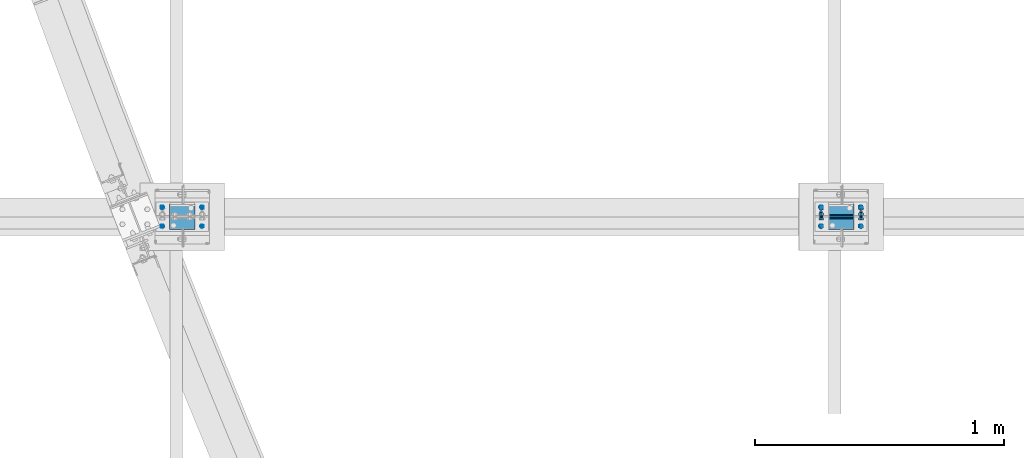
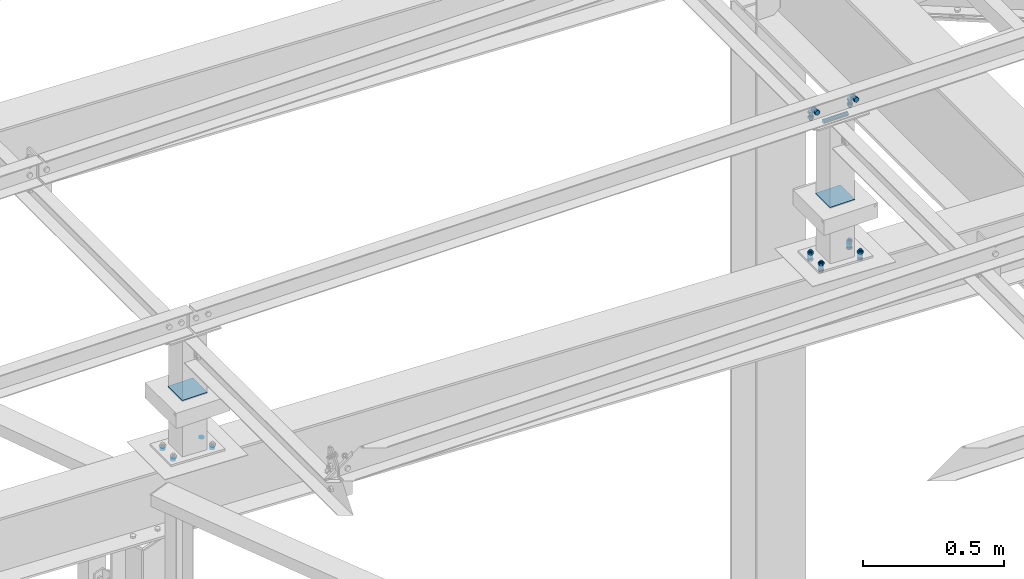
# One storey, part 53 of 3134: 8 mechanical fasteners, 5 elements without a shape of their own.
"""IFC2X3 building model written with IfcOpenShell, lengths in millimetres."""

from ifc_helpers import new_model, si_unit, frame, origin_with_axes, place, context, subcontext, project, spatial, faceted_brep, source, transform, mapped, material, type_object, element, aggregate, save


model = new_model("IFC2X3")

# Units and contexts
model_context = context("Model", 3, precision=1e-05, world=origin_with_axes())
body_context = subcontext(model_context, "Body", "Model", "MODEL_VIEW")
ifc_project = project(units=[si_unit("LENGTHUNIT", "METRE", prefix="MILLI"), si_unit("AREAUNIT", "SQUARE_METRE"), si_unit("VOLUMEUNIT", "CUBIC_METRE"), si_unit("MASSUNIT", "GRAM", prefix="KILO"), si_unit("TIMEUNIT", "SECOND"), si_unit("PLANEANGLEUNIT", "RADIAN"), si_unit("SOLIDANGLEUNIT", "STERADIAN"), si_unit("THERMODYNAMICTEMPERATUREUNIT", "DEGREE_CELSIUS"), si_unit("LUMINOUSINTENSITYUNIT", "LUMEN")], contexts=[model_context])

# Site, building, storey
site_placement = place(None, origin_with_axes())
site = spatial("IfcSite", under=ifc_project, at=site_placement, CompositionType="ELEMENT")
building_placement = place(site_placement, origin_with_axes())
building = spatial("IfcBuilding", under=site, at=building_placement, Name="Undefined", CompositionType="ELEMENT")
storey_placement = place(building_placement, origin_with_axes())
storey = spatial("IfcBuildingStorey", under=building, at=storey_placement, Name="Undefined", CompositionType="ELEMENT", Elevation=0.0)

# Assembly, mechanical fastener
assembly_1_placement = place(storey_placement, origin_with_axes())
assembly_1 = element("IfcElementAssembly", 1, at=assembly_1_placement, inside=storey, AssemblyPlace="NOTDEFINED", PredefinedType="RIGID_FRAME")
ifc_material_1 = material(Name="8.8")
mechanical_fastener_type = type_object("IfcMechanicalFastenerType", Name="Bolt assembly")
shared_shape_1 = source(origin_with_axes(), body_context, "Body", "Brep", [
    faceted_brep([(10.9696551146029, -14.0, 0.0), (5.48482755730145, -14.0, 9.5), (-5.48482755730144, -14.0, 9.5), (-10.9696551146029, -14.0, 1.34339530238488e-15), (-5.48482755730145, -14.0, -9.5), (5.48482755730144, -14.0, -9.50000000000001), (5.48482755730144, -6.0, -9.50000000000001), (-5.48482755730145, -6.0, -9.5), (-10.9696551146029, -6.0, 1.34339530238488e-15), (-5.48482755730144, -6.0, 9.5), (5.48482755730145, -6.0, 9.5), (10.9696551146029, -6.0, 0.0), (6.0, -6.0, 0.0), (5.19615242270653, -6.0, 3.00000000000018), (2.99999999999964, -6.0, 5.19615242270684), (-6.21801588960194e-13, -6.0, 6.0), (-3.00000000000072, -6.0, 5.19615242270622), (-5.19615242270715, -6.0, 2.9999999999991), (-6.0, -6.0, -1.24360317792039e-12), (-5.19615242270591, -6.0, -3.00000000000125), (-2.99999999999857, -6.0, -5.19615242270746), (1.85874342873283e-12, -6.0, -6.0), (3.00000000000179, -6.0, -5.1961524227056), (5.19615242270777, -6.0, -2.99999999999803), (5.19615242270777, 24.0, -2.99999999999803), (3.00000000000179, 24.0, -5.1961524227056), (1.85874342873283e-12, 24.0, -6.0), (-2.99999999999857, 24.0, -5.19615242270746), (-5.19615242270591, 24.0, -3.00000000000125), (-6.0, 24.0, -1.24360317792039e-12), (-5.19615242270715, 24.0, 2.9999999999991), (-3.00000000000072, 24.0, 5.19615242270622), (-6.21801588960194e-13, 24.0, 6.0), (2.99999999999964, 24.0, 5.19615242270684), (5.19615242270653, 24.0, 3.00000000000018), (6.0, 24.0, 0.0), (10.9696551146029, 6.00000000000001, 0.0), (5.48482755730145, 6.00000000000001, 9.5), (-5.48482755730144, 6.00000000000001, 9.5), (-10.9696551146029, 6.00000000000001, 1.34339530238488e-15), (-5.48482755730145, 6.00000000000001, -9.5), (5.48482755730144, 6.00000000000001, -9.50000000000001), (5.48482755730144, 16.0, -9.50000000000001), (-5.48482755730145, 16.0, -9.5), (-10.9696551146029, 16.0, 1.34339530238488e-15), (-5.48482755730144, 16.0, 9.5), (5.48482755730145, 16.0, 9.5), (10.9696551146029, 16.0, 0.0)], [[[0, 1, 2, 3, 4, 5]], [[6, 7, 8, 9, 10, 11]], [[0, 11, 10, 1]], [[1, 10, 9, 2]], [[2, 9, 8, 3]], [[3, 8, 7, 4]], [[4, 7, 6, 5]], [[5, 6, 11, 0]], [[12, 13, 14, 15, 16, 17, 18, 19, 20, 21, 22, 23]], [[24, 25, 26, 27, 28, 29, 30, 31, 32, 33, 34, 35]], [[12, 35, 34, 13]], [[13, 34, 33, 14]], [[14, 33, 32, 15]], [[15, 32, 31, 16]], [[16, 31, 30, 17]], [[17, 30, 29, 18]], [[18, 29, 28, 19]], [[19, 28, 27, 20]], [[20, 27, 26, 21]], [[21, 26, 25, 22]], [[22, 25, 24, 23]], [[23, 24, 35, 12]], [[36, 37, 38, 39, 40, 41]], [[42, 43, 44, 45, 46, 47]], [[36, 47, 46, 37]], [[37, 46, 45, 38]], [[38, 45, 44, 39]], [[39, 44, 43, 40]], [[40, 43, 42, 41]], [[41, 42, 47, 36]]]),
    faceted_brep([(7.0, -0.1, 0.0), (6.06217782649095, -0.1, 3.50000000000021), (3.49999999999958, -0.1, 6.06217782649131), (-7.25435187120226e-13, -0.1, 7.0), (-3.50000000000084, -0.1, 6.06217782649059), (-6.06217782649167, -0.1, 3.49999999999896), (-7.0, -0.1, -1.45087037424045e-12), (-6.06217782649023, -0.1, -3.50000000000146), (-3.49999999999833, -0.1, -6.06217782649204), (2.1685340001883e-12, -0.1, -7.0), (3.50000000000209, -0.1, -6.06217782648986), (6.0621778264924, -0.1, -3.4999999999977), (6.0621778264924, 6.00000000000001, -3.4999999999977), (3.50000000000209, 6.00000000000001, -6.06217782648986), (2.1685340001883e-12, 6.00000000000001, -7.0), (-3.49999999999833, 6.00000000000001, -6.06217782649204), (-6.06217782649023, 6.00000000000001, -3.50000000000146), (-7.0, 6.00000000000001, -1.45087037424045e-12), (-6.06217782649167, 6.00000000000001, 3.49999999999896), (-3.50000000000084, 6.00000000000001, 6.06217782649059), (-7.25435187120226e-13, 6.00000000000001, 7.0), (3.49999999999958, 6.00000000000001, 6.06217782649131), (6.06217782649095, 6.00000000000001, 3.50000000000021), (7.0, 6.00000000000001, 0.0), (7.0, -5.9, 0.0), (6.06217782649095, -5.9, 3.50000000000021), (3.49999999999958, -5.9, 6.06217782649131), (-7.25435187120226e-13, -5.9, 7.0), (-3.50000000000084, -5.9, 6.06217782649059), (-6.06217782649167, -5.9, 3.49999999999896), (-7.0, -5.9, -1.45087037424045e-12), (-6.06217782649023, -5.9, -3.50000000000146), (-3.49999999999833, -5.9, -6.06217782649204), (2.1685340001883e-12, -5.9, -7.0), (3.50000000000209, -5.9, -6.06217782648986), (6.0621778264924, -5.9, -3.4999999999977), (6.0621778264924, 0.0999999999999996, -3.4999999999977), (3.50000000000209, 0.0999999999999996, -6.06217782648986), (2.1685340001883e-12, 0.0999999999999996, -7.0), (-3.49999999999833, 0.0999999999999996, -6.06217782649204), (-6.06217782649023, 0.0999999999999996, -3.50000000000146), (-7.0, 0.0999999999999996, -1.45087037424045e-12), (-6.06217782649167, 0.0999999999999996, 3.49999999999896), (-3.50000000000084, 0.0999999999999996, 6.06217782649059), (-7.25435187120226e-13, 0.0999999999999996, 7.0), (3.49999999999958, 0.0999999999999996, 6.06217782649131), (6.06217782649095, 0.0999999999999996, 3.50000000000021), (7.0, 0.0999999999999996, 0.0)], [[[0, 1, 2, 3, 4, 5, 6, 7, 8, 9, 10, 11]], [[12, 13, 14, 15, 16, 17, 18, 19, 20, 21, 22, 23]], [[0, 23, 22, 1]], [[1, 22, 21, 2]], [[2, 21, 20, 3]], [[3, 20, 19, 4]], [[4, 19, 18, 5]], [[5, 18, 17, 6]], [[6, 17, 16, 7]], [[7, 16, 15, 8]], [[8, 15, 14, 9]], [[9, 14, 13, 10]], [[10, 13, 12, 11]], [[11, 12, 23, 0]], [[24, 25, 26, 27, 28, 29, 30, 31, 32, 33, 34, 35]], [[36, 37, 38, 39, 40, 41, 42, 43, 44, 45, 46, 47]], [[24, 47, 46, 25]], [[25, 46, 45, 26]], [[26, 45, 44, 27]], [[27, 44, 43, 28]], [[28, 43, 42, 29]], [[29, 42, 41, 30]], [[30, 41, 40, 31]], [[31, 40, 39, 32]], [[32, 39, 38, 33]], [[33, 38, 37, 34]], [[34, 37, 36, 35]], [[35, 36, 47, 24]]]),
])
mechanical_fastener_1_placement = place(assembly_1_placement, frame((8340.0, 17355.0, 4365.0), z_axis=(1.0, 0.0, 0.0), x_axis=(0.0, -1.0, 0.0)))
mechanical_fastener_1 = element("IfcMechanicalFastener", 2, at=mechanical_fastener_1_placement, type_object=mechanical_fastener_type, material=ifc_material_1, Name="Bolt assembly", NominalDiameter=12.0, NominalLength=30.0, context=body_context, shape_type="MappedRepresentation", body=[
    mapped(shared_shape_1, transform((0.0, -5.32963895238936e-10, -79.9999999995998))),
    mapped(shared_shape_1, transform((0.0, 5.3114490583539e-10, 79.9999999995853))),
])

assembly_2_placement = place(storey_placement, origin_with_axes())
assembly_2 = element("IfcElementAssembly", 3, at=assembly_2_placement, inside=storey, AssemblyPlace="NOTDEFINED", PredefinedType="RIGID_FRAME")
shared_shape_2 = source(origin_with_axes(), body_context, "Body", "Brep", [
    faceted_brep([(10.9696551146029, -4.18346828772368, 0.0), (5.48482755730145, -4.18346828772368, 9.5), (-5.48482755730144, -4.18346828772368, 9.5), (-10.9696551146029, -4.18346828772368, 1.34339530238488e-15), (-5.48482755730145, -4.18346828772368, -9.5), (5.48482755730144, -4.18346828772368, -9.50000000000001), (5.48482755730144, 3.81653171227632, -9.50000000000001), (-5.48482755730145, 3.81653171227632, -9.5), (-10.9696551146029, 3.81653171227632, 1.34339530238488e-15), (-5.48482755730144, 3.81653171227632, 9.5), (5.48482755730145, 3.81653171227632, 9.5), (10.9696551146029, 3.81653171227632, 0.0), (6.0, 3.81653171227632, 0.0), (5.19615242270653, 3.81653171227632, 3.00000000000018), (2.99999999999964, 3.81653171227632, 5.19615242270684), (-6.21801588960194e-13, 3.81653171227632, 6.0), (-3.00000000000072, 3.81653171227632, 5.19615242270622), (-5.19615242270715, 3.81653171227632, 2.9999999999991), (-6.0, 3.81653171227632, -1.24360317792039e-12), (-5.19615242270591, 3.81653171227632, -3.00000000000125), (-2.99999999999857, 3.81653171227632, -5.19615242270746), (1.85874342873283e-12, 3.81653171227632, -6.0), (3.00000000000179, 3.81653171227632, -5.1961524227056), (5.19615242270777, 3.81653171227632, -2.99999999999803), (5.19615242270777, 38.8165317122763, -2.99999999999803), (3.00000000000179, 38.8165317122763, -5.1961524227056), (1.85874342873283e-12, 38.8165317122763, -6.0), (-2.99999999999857, 38.8165317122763, -5.19615242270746), (-5.19615242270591, 38.8165317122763, -3.00000000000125), (-6.0, 38.8165317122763, -1.24360317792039e-12), (-5.19615242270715, 38.8165317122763, 2.9999999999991), (-3.00000000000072, 38.8165317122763, 5.19615242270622), (-6.21801588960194e-13, 38.8165317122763, 6.0), (2.99999999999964, 38.8165317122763, 5.19615242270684), (5.19615242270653, 38.8165317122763, 3.00000000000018), (6.0, 38.8165317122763, 0.0), (10.9696551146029, 23.0139082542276, 0.0), (5.48482755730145, 23.0139082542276, 9.5), (-5.48482755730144, 23.0139082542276, 9.5), (-10.9696551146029, 23.0139082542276, 1.34339530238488e-15), (-5.48482755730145, 23.0139082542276, -9.5), (5.48482755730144, 23.0139082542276, -9.50000000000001), (5.48482755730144, 33.0139082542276, -9.50000000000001), (-5.48482755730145, 33.0139082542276, -9.5), (-10.9696551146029, 33.0139082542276, 1.34339530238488e-15), (-5.48482755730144, 33.0139082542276, 9.5), (5.48482755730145, 33.0139082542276, 9.5), (10.9696551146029, 33.0139082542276, 0.0)], [[[0, 1, 2, 3, 4, 5]], [[6, 7, 8, 9, 10, 11]], [[0, 11, 10, 1]], [[1, 10, 9, 2]], [[2, 9, 8, 3]], [[3, 8, 7, 4]], [[4, 7, 6, 5]], [[5, 6, 11, 0]], [[12, 13, 14, 15, 16, 17, 18, 19, 20, 21, 22, 23]], [[24, 25, 26, 27, 28, 29, 30, 31, 32, 33, 34, 35]], [[12, 35, 34, 13]], [[13, 34, 33, 14]], [[14, 33, 32, 15]], [[15, 32, 31, 16]], [[16, 31, 30, 17]], [[17, 30, 29, 18]], [[18, 29, 28, 19]], [[19, 28, 27, 20]], [[20, 27, 26, 21]], [[21, 26, 25, 22]], [[22, 25, 24, 23]], [[23, 24, 35, 12]], [[36, 37, 38, 39, 40, 41]], [[42, 43, 44, 45, 46, 47]], [[36, 47, 46, 37]], [[37, 46, 45, 38]], [[38, 45, 44, 39]], [[39, 44, 43, 40]], [[40, 43, 42, 41]], [[41, 42, 47, 36]]]),
    faceted_brep([(7.0, 3.91653171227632, 0.0), (6.06217782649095, 3.91653171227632, 3.50000000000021), (3.49999999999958, 3.91653171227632, 6.06217782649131), (-7.25435187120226e-13, 3.91653171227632, 7.0), (-3.50000000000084, 3.91653171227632, 6.06217782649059), (-6.06217782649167, 3.91653171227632, 3.49999999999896), (-7.0, 3.91653171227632, -1.45087037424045e-12), (-6.06217782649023, 3.91653171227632, -3.50000000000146), (-3.49999999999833, 3.91653171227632, -6.06217782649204), (2.1685340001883e-12, 3.91653171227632, -7.0), (3.50000000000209, 3.91653171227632, -6.06217782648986), (6.0621778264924, 3.91653171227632, -3.4999999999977), (6.0621778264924, 13.1165315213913, -3.4999999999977), (3.50000000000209, 13.1165315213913, -6.06217782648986), (2.1685340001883e-12, 13.1165315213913, -7.0), (-3.49999999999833, 13.1165315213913, -6.06217782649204), (-6.06217782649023, 13.1165315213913, -3.50000000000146), (-7.0, 13.1165315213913, -1.45087037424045e-12), (-6.06217782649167, 13.1165315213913, 3.49999999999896), (-3.50000000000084, 13.1165315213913, 6.06217782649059), (-7.25435187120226e-13, 13.1165315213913, 7.0), (3.49999999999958, 13.1165315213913, 6.06217782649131), (6.06217782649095, 13.1165315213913, 3.50000000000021), (7.0, 13.1165315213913, 0.0), (7.0, 14.9139082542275, 0.0), (6.06217782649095, 14.9139082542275, 3.50000000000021), (3.49999999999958, 14.9139082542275, 6.06217782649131), (-7.25435187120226e-13, 14.9139082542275, 7.0), (-3.50000000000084, 14.9139082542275, 6.06217782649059), (-6.06217782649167, 14.9139082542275, 3.49999999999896), (-7.0, 14.9139082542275, -1.45087037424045e-12), (-6.06217782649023, 14.9139082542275, -3.50000000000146), (-3.49999999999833, 14.9139082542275, -6.06217782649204), (2.1685340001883e-12, 14.9139082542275, -7.0), (3.50000000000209, 14.9139082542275, -6.06217782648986), (6.0621778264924, 14.9139082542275, -3.4999999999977), (6.0621778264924, 23.0139082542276, -3.4999999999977), (3.50000000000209, 23.0139082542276, -6.06217782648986), (2.1685340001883e-12, 23.0139082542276, -7.0), (-3.49999999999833, 23.0139082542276, -6.06217782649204), (-6.06217782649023, 23.0139082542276, -3.50000000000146), (-7.0, 23.0139082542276, -1.45087037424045e-12), (-6.06217782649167, 23.0139082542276, 3.49999999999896), (-3.50000000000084, 23.0139082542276, 6.06217782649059), (-7.25435187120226e-13, 23.0139082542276, 7.0), (3.49999999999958, 23.0139082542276, 6.06217782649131), (6.06217782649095, 23.0139082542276, 3.50000000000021), (7.0, 23.0139082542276, 0.0)], [[[0, 1, 2, 3, 4, 5, 6, 7, 8, 9, 10, 11]], [[12, 13, 14, 15, 16, 17, 18, 19, 20, 21, 22, 23]], [[0, 23, 22, 1]], [[1, 22, 21, 2]], [[2, 21, 20, 3]], [[3, 20, 19, 4]], [[4, 19, 18, 5]], [[5, 18, 17, 6]], [[6, 17, 16, 7]], [[7, 16, 15, 8]], [[8, 15, 14, 9]], [[9, 14, 13, 10]], [[10, 13, 12, 11]], [[11, 12, 23, 0]], [[24, 25, 26, 27, 28, 29, 30, 31, 32, 33, 34, 35]], [[36, 37, 38, 39, 40, 41, 42, 43, 44, 45, 46, 47]], [[24, 47, 46, 25]], [[25, 46, 45, 26]], [[26, 45, 44, 27]], [[27, 44, 43, 28]], [[28, 43, 42, 29]], [[29, 42, 41, 30]], [[30, 41, 40, 31]], [[31, 40, 39, 32]], [[32, 39, 38, 33]], [[33, 38, 37, 34]], [[34, 37, 36, 35]], [[35, 36, 47, 24]]]),
])
mechanical_fastener_2_placement = place(assembly_2_placement, frame((8339.1931765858, 17357.9999999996, 3735.10000668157), z_axis=(-0.999387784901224, 0.0, 0.0349865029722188), x_axis=(0.0, -1.0, 0.0)))
mechanical_fastener_2 = element("IfcMechanicalFastener", 4, at=mechanical_fastener_2_placement, type_object=mechanical_fastener_type, material=ifc_material_1, Name="Bolt assembly", NominalDiameter=12.0, NominalLength=35.0, context=body_context, shape_type="MappedRepresentation", body=[
    mapped(shared_shape_2, transform((0.0, -5.32963895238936e-10, -79.9999999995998))),
    mapped(shared_shape_2, transform((76.0, -5.32963895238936e-10, -79.9999999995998))),
    mapped(shared_shape_2, transform((0.0, 5.3114490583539e-10, 79.9999999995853))),
    mapped(shared_shape_2, transform((76.0, 5.3114490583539e-10, 79.9999999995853))),
])

assembly_3_placement = place(storey_placement, origin_with_axes())
assembly_3 = element("IfcElementAssembly", 5, at=assembly_3_placement, inside=storey, AssemblyPlace="NOTDEFINED", PredefinedType="RIGID_FRAME")
shared_shape_3 = source(origin_with_axes(), body_context, "Body", "Brep", [
    faceted_brep([(7.0, 13.0000253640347, 0.0), (6.06217782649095, 13.0000253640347, 3.50000000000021), (3.49999999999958, 13.0000253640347, 6.06217782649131), (-7.25435187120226e-13, 13.0000253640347, 7.0), (-3.50000000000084, 13.0000253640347, 6.06217782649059), (-6.06217782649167, 13.0000253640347, 3.49999999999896), (-7.0, 13.0000253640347, -1.45087037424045e-12), (-6.06217782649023, 13.0000253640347, -3.50000000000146), (-3.49999999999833, 13.0000253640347, -6.06217782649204), (2.1685340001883e-12, 13.0000253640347, -7.0), (3.50000000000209, 13.0000253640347, -6.06217782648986), (6.0621778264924, 13.0000253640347, -3.4999999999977), (6.0621778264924, 15.0999999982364, -3.4999999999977), (3.50000000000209, 15.0999999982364, -6.06217782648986), (2.1685340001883e-12, 15.0999999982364, -7.0), (-3.49999999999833, 15.0999999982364, -6.06217782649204), (-6.06217782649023, 15.0999999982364, -3.50000000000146), (-7.0, 15.0999999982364, -1.45087037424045e-12), (-6.06217782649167, 15.0999999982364, 3.49999999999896), (-3.50000000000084, 15.0999999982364, 6.06217782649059), (-7.25435187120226e-13, 15.0999999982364, 7.0), (3.49999999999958, 15.0999999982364, 6.06217782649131), (6.06217782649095, 15.0999999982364, 3.50000000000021), (7.0, 15.0999999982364, 0.0)], [[[0, 1, 2, 3, 4, 5, 6, 7, 8, 9, 10, 11]], [[12, 13, 14, 15, 16, 17, 18, 19, 20, 21, 22, 23]], [[0, 23, 22, 1]], [[1, 22, 21, 2]], [[2, 21, 20, 3]], [[3, 20, 19, 4]], [[4, 19, 18, 5]], [[5, 18, 17, 6]], [[6, 17, 16, 7]], [[7, 16, 15, 8]], [[8, 15, 14, 9]], [[9, 14, 13, 10]], [[10, 13, 12, 11]], [[11, 12, 23, 0]]]),
])
mechanical_fastener_3_placement = place(assembly_3_placement, frame((5690.86474073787, 17357.9999999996, 3827.79222028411), z_axis=(-0.999387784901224, 0.0, 0.0349865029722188), x_axis=(0.0, -1.0, 0.0)))
mechanical_fastener_3 = element("IfcMechanicalFastener", 6, at=mechanical_fastener_3_placement, type_object=mechanical_fastener_type, material=ifc_material_1, Name="Bolt assembly", NominalDiameter=12.0, NominalLength=2.0, context=body_context, shape_type="MappedRepresentation", body=[
    mapped(shared_shape_3, transform((0.0, -5.32963895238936e-10, -79.9999999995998))),
    mapped(shared_shape_3, transform((76.0, -5.32963895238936e-10, -79.9999999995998))),
    mapped(shared_shape_3, transform((0.0, 5.3114490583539e-10, 79.9999999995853))),
    mapped(shared_shape_3, transform((76.0, 5.3114490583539e-10, 79.9999999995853))),
])
aggregate(assembly_3, [mechanical_fastener_3])

assembly_4_placement = place(storey_placement, origin_with_axes())
assembly_4 = element("IfcElementAssembly", 7, at=assembly_4_placement, inside=storey, AssemblyPlace="NOTDEFINED", PredefinedType="RIGID_FRAME")
mechanical_fastener_4_placement = place(assembly_4_placement, frame((8339.1931765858, 17357.9999999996, 3735.10000668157), z_axis=(-0.999387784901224, 0.0, 0.0349865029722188), x_axis=(0.0, -1.0, 0.0)))
mechanical_fastener_4 = element("IfcMechanicalFastener", 8, at=mechanical_fastener_4_placement, type_object=mechanical_fastener_type, material=ifc_material_1, Name="Bolt assembly", NominalDiameter=12.0, NominalLength=2.0, context=body_context, shape_type="MappedRepresentation", body=[
    mapped(shared_shape_3, transform((0.0, -5.32963895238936e-10, -79.9999999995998))),
    mapped(shared_shape_3, transform((76.0, -5.32963895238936e-10, -79.9999999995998))),
    mapped(shared_shape_3, transform((0.0, 5.3114490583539e-10, 79.9999999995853))),
    mapped(shared_shape_3, transform((76.0, 5.3114490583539e-10, 79.9999999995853))),
])
aggregate(assembly_4, [mechanical_fastener_4])

# Mechanical fastener
shared_shape_4 = source(origin_with_axes(), body_context, "Body", "Brep", [
    faceted_brep([(9.0, -50.0, 0.0), (7.79422863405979, -50.0, 4.50000000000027), (4.49999999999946, -50.0, 7.79422863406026), (-9.3270238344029e-13, -50.0, 9.0), (-4.50000000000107, -50.0, 7.79422863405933), (-7.79422863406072, -50.0, 4.49999999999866), (-9.0, -50.0, -1.86540476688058e-12), (-7.79422863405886, -50.0, -4.50000000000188), (-4.49999999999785, -50.0, -7.79422863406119), (2.78811514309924e-12, -50.0, -9.0), (4.50000000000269, -50.0, -7.7942286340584), (7.79422863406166, -50.0, -4.49999999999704), (7.79422863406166, 50.1, -4.49999999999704), (4.50000000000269, 50.1, -7.7942286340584), (2.78811514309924e-12, 50.1, -9.0), (-4.49999999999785, 50.1, -7.79422863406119), (-7.79422863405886, 50.1, -4.50000000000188), (-9.0, 50.1, -1.86540476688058e-12), (-7.79422863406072, 50.1, 4.49999999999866), (-4.50000000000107, 50.1, 7.79422863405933), (-9.3270238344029e-13, 50.1, 9.0), (4.49999999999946, 50.1, 7.79422863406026), (7.79422863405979, 50.1, 4.50000000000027), (9.0, 50.1, 0.0)], [[[0, 1, 2, 3, 4, 5, 6, 7, 8, 9, 10, 11]], [[12, 13, 14, 15, 16, 17, 18, 19, 20, 21, 22, 23]], [[0, 23, 22, 1]], [[1, 22, 21, 2]], [[2, 21, 20, 3]], [[3, 20, 19, 4]], [[4, 19, 18, 5]], [[5, 18, 17, 6]], [[6, 17, 16, 7]], [[7, 16, 15, 8]], [[8, 15, 14, 9]], [[9, 14, 13, 10]], [[10, 13, 12, 11]], [[11, 12, 23, 0]]]),
])
mechanical_fastener_5_placement = place(assembly_2_placement, frame((8340.0, 17320.0, 4345.0), z_axis=(0.0, 1.0, 0.0), x_axis=(0.0, 0.0, 1.0)))
mechanical_fastener_5 = element("IfcMechanicalFastener", 9, at=mechanical_fastener_5_placement, type_object=mechanical_fastener_type, material=ifc_material_1, Name="Bolt assembly", NominalDiameter=16.0, NominalLength=100.0, context=body_context, shape_type="MappedRepresentation", body=[
    mapped(shared_shape_4, transform((0.0, 0.0, 0.0))),
])

# Assembly, mechanical fastener
assembly_5_placement = place(storey_placement, origin_with_axes())
assembly_5 = element("IfcElementAssembly", 10, at=assembly_5_placement, inside=storey, AssemblyPlace="NOTDEFINED", PredefinedType="RIGID_FRAME")
ifc_material_2 = material(Name="6.8")
shared_shape_5 = source(origin_with_axes(), body_context, "Body", "Brep", [
    faceted_brep([(51.5, 1.36424205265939e-12, 50.0), (51.3858192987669, 1.36424205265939e-12, 50.5740251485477), (51.0606601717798, 1.36424205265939e-12, 51.0606601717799), (50.5740251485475, 1.36424205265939e-12, 51.385819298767), (-50.0000000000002, 1.36424205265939e-12, 51.5), (-50.7500000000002, 1.36424205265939e-12, 51.2990381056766), (-51.2990381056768, 1.36424205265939e-12, 50.7499999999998), (-51.5, 1.36424205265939e-12, 49.9999999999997), (-51.5, 1.36424205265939e-12, -50.0000000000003), (-51.2990381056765, 1.36424205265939e-12, -50.7500000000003), (-50.7499999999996, 1.36424205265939e-12, -51.2990381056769), (-49.9999999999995, 1.36424205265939e-12, -51.5), (50.0000000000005, 1.36424205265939e-12, -51.5), (50.7500000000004, 1.36424205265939e-12, -51.2990381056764), (51.2990381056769, 1.36424205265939e-12, -50.7499999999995), (51.5, 1.36424205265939e-12, -49.9999999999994), (51.5, 5.10000000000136, -49.9999999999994), (51.2990381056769, 5.10000000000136, -50.7499999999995), (50.7500000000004, 5.10000000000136, -51.2990381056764), (50.0000000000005, 5.10000000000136, -51.5), (-49.9999999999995, 5.10000000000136, -51.5), (-50.7499999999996, 5.10000000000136, -51.2990381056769), (-51.2990381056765, 5.10000000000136, -50.7500000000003), (-51.5, 5.10000000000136, -50.0000000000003), (-51.5, 5.10000000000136, 49.9999999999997), (-51.2990381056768, 5.10000000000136, 50.7499999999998), (-50.7500000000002, 5.10000000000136, 51.2990381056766), (-50.0000000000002, 5.10000000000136, 51.5), (50.5740251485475, 5.10000000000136, 51.385819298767), (51.0606601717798, 5.10000000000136, 51.0606601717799), (51.3858192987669, 5.10000000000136, 50.5740251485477), (51.5, 5.10000000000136, 50.0)], [[[0, 1, 2, 3, 4, 5, 6, 7, 8, 9, 10, 11, 12, 13, 14, 15]], [[16, 17, 18, 19, 20, 21, 22, 23, 24, 25, 26, 27, 28, 29, 30, 31]], [[0, 31, 30, 1]], [[1, 30, 29, 2]], [[2, 29, 28, 3]], [[3, 28, 27, 4]], [[4, 27, 26, 5]], [[5, 26, 25, 6]], [[6, 25, 24, 7]], [[7, 24, 23, 8]], [[8, 23, 22, 9]], [[9, 22, 21, 10]], [[10, 21, 20, 11]], [[11, 20, 19, 12]], [[12, 19, 18, 13]], [[13, 18, 17, 14]], [[14, 17, 16, 15]], [[15, 16, 31, 0]]]),
])
mechanical_fastener_6_placement = place(assembly_5_placement, frame((5691.66156415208, 17320.0, 4097.5922136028), z_axis=(0.0, -1.0, 0.0), x_axis=(-1.0, 0.0, 0.0)))
mechanical_fastener_6 = element("IfcMechanicalFastener", 11, at=mechanical_fastener_6_placement, type_object=mechanical_fastener_type, material=ifc_material_2, Name="Bolt assembly", NominalDiameter=10.0, NominalLength=5.0, context=body_context, shape_type="MappedRepresentation", body=[
    mapped(shared_shape_5, transform((0.0, 0.0, 0.0))),
])
aggregate(assembly_5, [mechanical_fastener_6])

# Mechanical fastener
mechanical_fastener_7_placement = place(assembly_2_placement, frame((8340.0, 17320.0, 4004.89), z_axis=(0.0, -1.0, 0.0), x_axis=(-1.0, 0.0, 0.0)))
mechanical_fastener_7 = element("IfcMechanicalFastener", 12, at=mechanical_fastener_7_placement, type_object=mechanical_fastener_type, material=ifc_material_2, Name="Bolt assembly", NominalDiameter=10.0, NominalLength=5.0, context=body_context, shape_type="MappedRepresentation", body=[
    mapped(shared_shape_5, transform((0.0, 0.0, 0.0))),
])

aggregate(assembly_2, [mechanical_fastener_2, mechanical_fastener_7, mechanical_fastener_5])

shared_shape_6 = source(origin_with_axes(), body_context, "Body", "Brep", [
    faceted_brep([(10.9696551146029, -12.0, 0.0), (5.48482755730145, -12.0, 9.5), (-5.48482755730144, -12.0, 9.5), (-10.9696551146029, -12.0, 1.34339530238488e-15), (-5.48482755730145, -12.0, -9.5), (5.48482755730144, -12.0, -9.50000000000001), (5.48482755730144, -4.0, -9.50000000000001), (-5.48482755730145, -4.0, -9.5), (-10.9696551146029, -4.0, 1.34339530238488e-15), (-5.48482755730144, -4.0, 9.5), (5.48482755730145, -4.0, 9.5), (10.9696551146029, -4.0, 0.0), (6.0, -4.0, 0.0), (5.19615242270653, -4.0, 3.00000000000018), (2.99999999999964, -4.0, 5.19615242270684), (-6.21801588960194e-13, -4.0, 6.0), (-3.00000000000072, -4.0, 5.19615242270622), (-5.19615242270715, -4.0, 2.9999999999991), (-6.0, -4.0, -1.24360317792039e-12), (-5.19615242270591, -4.0, -3.00000000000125), (-2.99999999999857, -4.0, -5.19615242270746), (1.85874342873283e-12, -4.0, -6.0), (3.00000000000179, -4.0, -5.1961524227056), (5.19615242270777, -4.0, -2.99999999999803), (5.19615242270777, 21.0, -2.99999999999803), (3.00000000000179, 21.0, -5.1961524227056), (1.85874342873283e-12, 21.0, -6.0), (-2.99999999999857, 21.0, -5.19615242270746), (-5.19615242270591, 21.0, -3.00000000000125), (-6.0, 21.0, -1.24360317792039e-12), (-5.19615242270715, 21.0, 2.9999999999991), (-3.00000000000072, 21.0, 5.19615242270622), (-6.21801588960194e-13, 21.0, 6.0), (2.99999999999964, 21.0, 5.19615242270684), (5.19615242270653, 21.0, 3.00000000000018), (6.0, 21.0, 0.0), (10.9696551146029, 6.00000000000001, 0.0), (5.48482755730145, 6.00000000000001, 9.5), (-5.48482755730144, 6.00000000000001, 9.5), (-10.9696551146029, 6.00000000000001, 1.34339530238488e-15), (-5.48482755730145, 6.00000000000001, -9.5), (5.48482755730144, 6.00000000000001, -9.50000000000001), (5.48482755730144, 16.0, -9.50000000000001), (-5.48482755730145, 16.0, -9.5), (-10.9696551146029, 16.0, 1.34339530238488e-15), (-5.48482755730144, 16.0, 9.5), (5.48482755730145, 16.0, 9.5), (10.9696551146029, 16.0, 0.0)], [[[0, 1, 2, 3, 4, 5]], [[6, 7, 8, 9, 10, 11]], [[0, 11, 10, 1]], [[1, 10, 9, 2]], [[2, 9, 8, 3]], [[3, 8, 7, 4]], [[4, 7, 6, 5]], [[5, 6, 11, 0]], [[12, 13, 14, 15, 16, 17, 18, 19, 20, 21, 22, 23]], [[24, 25, 26, 27, 28, 29, 30, 31, 32, 33, 34, 35]], [[12, 35, 34, 13]], [[13, 34, 33, 14]], [[14, 33, 32, 15]], [[15, 32, 31, 16]], [[16, 31, 30, 17]], [[17, 30, 29, 18]], [[18, 29, 28, 19]], [[19, 28, 27, 20]], [[20, 27, 26, 21]], [[21, 26, 25, 22]], [[22, 25, 24, 23]], [[23, 24, 35, 12]], [[36, 37, 38, 39, 40, 41]], [[42, 43, 44, 45, 46, 47]], [[36, 47, 46, 37]], [[37, 46, 45, 38]], [[38, 45, 44, 39]], [[39, 44, 43, 40]], [[40, 43, 42, 41]], [[41, 42, 47, 36]]]),
    faceted_brep([(7.0, -3.9, 0.0), (6.06217782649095, -3.9, 3.50000000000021), (3.49999999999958, -3.9, 6.06217782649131), (-7.25435187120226e-13, -3.9, 7.0), (-3.50000000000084, -3.9, 6.06217782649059), (-6.06217782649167, -3.9, 3.49999999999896), (-7.0, -3.9, -1.45087037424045e-12), (-6.06217782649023, -3.9, -3.50000000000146), (-3.49999999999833, -3.9, -6.06217782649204), (2.1685340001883e-12, -3.9, -7.0), (3.50000000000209, -3.9, -6.06217782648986), (6.0621778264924, -3.9, -3.4999999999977), (6.0621778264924, 0.0999999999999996, -3.4999999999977), (3.50000000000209, 0.0999999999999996, -6.06217782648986), (2.1685340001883e-12, 0.0999999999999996, -7.0), (-3.49999999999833, 0.0999999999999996, -6.06217782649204), (-6.06217782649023, 0.0999999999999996, -3.50000000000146), (-7.0, 0.0999999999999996, -1.45087037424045e-12), (-6.06217782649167, 0.0999999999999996, 3.49999999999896), (-3.50000000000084, 0.0999999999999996, 6.06217782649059), (-7.25435187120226e-13, 0.0999999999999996, 7.0), (3.49999999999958, 0.0999999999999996, 6.06217782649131), (6.06217782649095, 0.0999999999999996, 3.50000000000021), (7.0, 0.0999999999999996, 0.0), (7.0, -0.1, 0.0), (6.06217782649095, -0.1, 3.50000000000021), (3.49999999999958, -0.1, 6.06217782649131), (-7.25435187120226e-13, -0.1, 7.0), (-3.50000000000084, -0.1, 6.06217782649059), (-6.06217782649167, -0.1, 3.49999999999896), (-7.0, -0.1, -1.45087037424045e-12), (-6.06217782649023, -0.1, -3.50000000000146), (-3.49999999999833, -0.1, -6.06217782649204), (2.1685340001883e-12, -0.1, -7.0), (3.50000000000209, -0.1, -6.06217782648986), (6.0621778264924, -0.1, -3.4999999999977), (6.0621778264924, 6.00000000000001, -3.4999999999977), (3.50000000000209, 6.00000000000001, -6.06217782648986), (2.1685340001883e-12, 6.00000000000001, -7.0), (-3.49999999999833, 6.00000000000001, -6.06217782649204), (-6.06217782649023, 6.00000000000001, -3.50000000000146), (-7.0, 6.00000000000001, -1.45087037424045e-12), (-6.06217782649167, 6.00000000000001, 3.49999999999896), (-3.50000000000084, 6.00000000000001, 6.06217782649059), (-7.25435187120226e-13, 6.00000000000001, 7.0), (3.49999999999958, 6.00000000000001, 6.06217782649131), (6.06217782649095, 6.00000000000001, 3.50000000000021), (7.0, 6.00000000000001, 0.0)], [[[0, 1, 2, 3, 4, 5, 6, 7, 8, 9, 10, 11]], [[12, 13, 14, 15, 16, 17, 18, 19, 20, 21, 22, 23]], [[0, 23, 22, 1]], [[1, 22, 21, 2]], [[2, 21, 20, 3]], [[3, 20, 19, 4]], [[4, 19, 18, 5]], [[5, 18, 17, 6]], [[6, 17, 16, 7]], [[7, 16, 15, 8]], [[8, 15, 14, 9]], [[9, 14, 13, 10]], [[10, 13, 12, 11]], [[11, 12, 23, 0]], [[24, 25, 26, 27, 28, 29, 30, 31, 32, 33, 34, 35]], [[36, 37, 38, 39, 40, 41, 42, 43, 44, 45, 46, 47]], [[24, 47, 46, 25]], [[25, 46, 45, 26]], [[26, 45, 44, 27]], [[27, 44, 43, 28]], [[28, 43, 42, 29]], [[29, 42, 41, 30]], [[30, 41, 40, 31]], [[31, 40, 39, 32]], [[32, 39, 38, 33]], [[33, 38, 37, 34]], [[34, 37, 36, 35]], [[35, 36, 47, 24]]]),
])
mechanical_fastener_8_placement = place(assembly_1_placement, frame((8340.0, 17320.0, 4400.0), z_axis=(1.0, 0.0, 0.0), x_axis=(0.0, 0.0, -1.0)))
mechanical_fastener_8 = element("IfcMechanicalFastener", 13, at=mechanical_fastener_8_placement, type_object=mechanical_fastener_type, material=ifc_material_1, Name="Bolt assembly", NominalDiameter=12.0, NominalLength=25.0, context=body_context, shape_type="MappedRepresentation", body=[
    mapped(shared_shape_6, transform((0.0, -5.32963895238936e-10, -79.9999999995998))),
    mapped(shared_shape_6, transform((0.0, 5.3114490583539e-10, 79.9999999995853))),
])

aggregate(assembly_1, [mechanical_fastener_8, mechanical_fastener_1])

save(model, "model.ifc")
